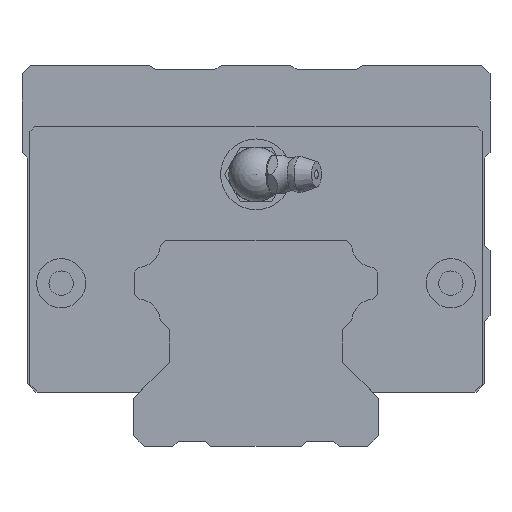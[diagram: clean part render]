
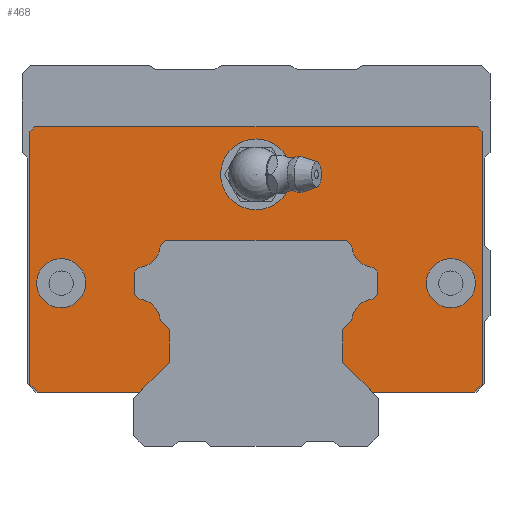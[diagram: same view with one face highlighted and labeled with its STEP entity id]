
A CAD part, front view. The second image highlights one B-rep face of the part: STEP entity #468.
In plain terms, the highlighted planar face has unit normal (0, -1, 0).
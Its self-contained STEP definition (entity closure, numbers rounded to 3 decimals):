
#185=FACE_BOUND('',#950,.T.);
#186=FACE_BOUND('',#951,.T.);
#187=FACE_BOUND('',#952,.T.);
#291=CIRCLE('',#3246,4.35);
#293=CIRCLE('',#3252,4.35);
#295=CIRCLE('',#3258,4.35);
#297=CIRCLE('',#3264,4.35);
#305=CIRCLE('',#3304,6.5);
#306=CIRCLE('',#3305,4.5);
#307=CIRCLE('',#3306,4.5);
#468=ADVANCED_FACE('',(#185,#186,#187,#755),#608,.F.);
#608=PLANE('',#3307);
#755=FACE_OUTER_BOUND('',#953,.T.);
#950=EDGE_LOOP('',(#1685));
#951=EDGE_LOOP('',(#1686));
#952=EDGE_LOOP('',(#1687));
#953=EDGE_LOOP('',(#1688,#1689,#1690,#1691,#1692,#1693,#1694,#1695,#1696,
#1697,#1698,#1699,#1700,#1701,#1702,#1703,#1704,#1705,#1706,#1707,#1708,
#1709,#1710,#1711,#1712,#1713,#1714,#1715));
#1685=ORIENTED_EDGE('',*,*,#2465,.F.);
#1686=ORIENTED_EDGE('',*,*,#2466,.F.);
#1687=ORIENTED_EDGE('',*,*,#2467,.F.);
#1688=ORIENTED_EDGE('',*,*,#2453,.F.);
#1689=ORIENTED_EDGE('',*,*,#2464,.T.);
#1690=ORIENTED_EDGE('',*,*,#2462,.T.);
#1691=ORIENTED_EDGE('',*,*,#2401,.T.);
#1692=ORIENTED_EDGE('',*,*,#2393,.F.);
#1693=ORIENTED_EDGE('',*,*,#2390,.F.);
#1694=ORIENTED_EDGE('',*,*,#2387,.T.);
#1695=ORIENTED_EDGE('',*,*,#2384,.T.);
#1696=ORIENTED_EDGE('',*,*,#2381,.T.);
#1697=ORIENTED_EDGE('',*,*,#2378,.F.);
#1698=ORIENTED_EDGE('',*,*,#2375,.F.);
#1699=ORIENTED_EDGE('',*,*,#2372,.T.);
#1700=ORIENTED_EDGE('',*,*,#2369,.F.);
#1701=ORIENTED_EDGE('',*,*,#2366,.T.);
#1702=ORIENTED_EDGE('',*,*,#2363,.T.);
#1703=ORIENTED_EDGE('',*,*,#2360,.T.);
#1704=ORIENTED_EDGE('',*,*,#2357,.T.);
#1705=ORIENTED_EDGE('',*,*,#2354,.T.);
#1706=ORIENTED_EDGE('',*,*,#2351,.F.);
#1707=ORIENTED_EDGE('',*,*,#2348,.T.);
#1708=ORIENTED_EDGE('',*,*,#2345,.F.);
#1709=ORIENTED_EDGE('',*,*,#2342,.T.);
#1710=ORIENTED_EDGE('',*,*,#2339,.T.);
#1711=ORIENTED_EDGE('',*,*,#2334,.F.);
#1712=ORIENTED_EDGE('',*,*,#2461,.T.);
#1713=ORIENTED_EDGE('',*,*,#2459,.F.);
#1714=ORIENTED_EDGE('',*,*,#2457,.F.);
#1715=ORIENTED_EDGE('',*,*,#2455,.F.);
#1976=VERTEX_POINT('',#4848);
#1977=VERTEX_POINT('',#4850);
#1981=VERTEX_POINT('',#4860);
#1983=VERTEX_POINT('',#4866);
#1985=VERTEX_POINT('',#4872);
#1987=VERTEX_POINT('',#4878);
#1989=VERTEX_POINT('',#4884);
#1991=VERTEX_POINT('',#4890);
#1993=VERTEX_POINT('',#4896);
#1995=VERTEX_POINT('',#4902);
#1997=VERTEX_POINT('',#4908);
#1999=VERTEX_POINT('',#4914);
#2001=VERTEX_POINT('',#4920);
#2003=VERTEX_POINT('',#4926);
#2005=VERTEX_POINT('',#4932);
#2007=VERTEX_POINT('',#4938);
#2009=VERTEX_POINT('',#4944);
#2011=VERTEX_POINT('',#4950);
#2013=VERTEX_POINT('',#4956);
#2015=VERTEX_POINT('',#4962);
#2017=VERTEX_POINT('',#4968);
#2024=VERTEX_POINT('',#4984);
#2061=VERTEX_POINT('',#5093);
#2062=VERTEX_POINT('',#5095);
#2063=VERTEX_POINT('',#5099);
#2064=VERTEX_POINT('',#5103);
#2065=VERTEX_POINT('',#5107);
#2066=VERTEX_POINT('',#5113);
#2067=VERTEX_POINT('',#5119);
#2068=VERTEX_POINT('',#5121);
#2069=VERTEX_POINT('',#5123);
#2334=EDGE_CURVE('',#1976,#1977,#2669,.T.);
#2339=EDGE_CURVE('',#1981,#1977,#2674,.T.);
#2342=EDGE_CURVE('',#1983,#1981,#2677,.T.);
#2345=EDGE_CURVE('',#1983,#1985,#2680,.T.);
#2348=EDGE_CURVE('',#1987,#1985,#291,.T.);
#2351=EDGE_CURVE('',#1987,#1989,#2684,.T.);
#2354=EDGE_CURVE('',#1991,#1989,#2687,.T.);
#2357=EDGE_CURVE('',#1993,#1991,#2690,.T.);
#2360=EDGE_CURVE('',#1995,#1993,#293,.T.);
#2363=EDGE_CURVE('',#1997,#1995,#2694,.T.);
#2366=EDGE_CURVE('',#1999,#1997,#2697,.T.);
#2369=EDGE_CURVE('',#1999,#2001,#2700,.T.);
#2372=EDGE_CURVE('',#2003,#2001,#295,.T.);
#2375=EDGE_CURVE('',#2003,#2005,#2704,.T.);
#2378=EDGE_CURVE('',#2005,#2007,#2707,.T.);
#2381=EDGE_CURVE('',#2009,#2007,#2710,.T.);
#2384=EDGE_CURVE('',#2011,#2009,#297,.T.);
#2387=EDGE_CURVE('',#2013,#2011,#2714,.T.);
#2390=EDGE_CURVE('',#2013,#2015,#2717,.T.);
#2393=EDGE_CURVE('',#2015,#2017,#2720,.T.);
#2401=EDGE_CURVE('',#2024,#2017,#2728,.T.);
#2453=EDGE_CURVE('',#2061,#2062,#2774,.T.);
#2455=EDGE_CURVE('',#2062,#2063,#2776,.T.);
#2457=EDGE_CURVE('',#2063,#2064,#2778,.T.);
#2459=EDGE_CURVE('',#2064,#2065,#2780,.T.);
#2461=EDGE_CURVE('',#1976,#2065,#2782,.T.);
#2462=EDGE_CURVE('',#2066,#2024,#2783,.T.);
#2464=EDGE_CURVE('',#2061,#2066,#2785,.T.);
#2465=EDGE_CURVE('',#2067,#2067,#305,.T.);
#2466=EDGE_CURVE('',#2068,#2068,#306,.T.);
#2467=EDGE_CURVE('',#2069,#2069,#307,.T.);
#2669=LINE('',#4849,#2970);
#2674=LINE('',#4859,#2975);
#2677=LINE('',#4865,#2978);
#2680=LINE('',#4871,#2981);
#2684=LINE('',#4883,#2985);
#2687=LINE('',#4889,#2988);
#2690=LINE('',#4895,#2991);
#2694=LINE('',#4907,#2995);
#2697=LINE('',#4913,#2998);
#2700=LINE('',#4919,#3001);
#2704=LINE('',#4931,#3005);
#2707=LINE('',#4937,#3008);
#2710=LINE('',#4943,#3011);
#2714=LINE('',#4955,#3015);
#2717=LINE('',#4961,#3018);
#2720=LINE('',#4967,#3021);
#2728=LINE('',#4983,#3029);
#2774=LINE('',#5094,#3075);
#2776=LINE('',#5098,#3077);
#2778=LINE('',#5102,#3079);
#2780=LINE('',#5106,#3081);
#2782=LINE('',#5110,#3083);
#2783=LINE('',#5112,#3084);
#2785=LINE('',#5116,#3086);
#2970=VECTOR('',#3808,1.);
#2975=VECTOR('',#3815,1.);
#2978=VECTOR('',#3820,1.);
#2981=VECTOR('',#3825,1.);
#2985=VECTOR('',#3837,1.);
#2988=VECTOR('',#3842,1.);
#2991=VECTOR('',#3847,1.);
#2995=VECTOR('',#3859,1.);
#2998=VECTOR('',#3864,1.);
#3001=VECTOR('',#3869,1.);
#3005=VECTOR('',#3881,1.);
#3008=VECTOR('',#3886,1.);
#3011=VECTOR('',#3891,1.);
#3015=VECTOR('',#3903,1.);
#3018=VECTOR('',#3908,1.);
#3021=VECTOR('',#3913,1.);
#3029=VECTOR('',#3923,1.);
#3075=VECTOR('',#4023,1.);
#3077=VECTOR('',#4027,1.);
#3079=VECTOR('',#4031,1.);
#3081=VECTOR('',#4035,1.);
#3083=VECTOR('',#4039,1.);
#3084=VECTOR('',#4042,1.);
#3086=VECTOR('',#4046,1.);
#3246=AXIS2_PLACEMENT_3D('',#4877,#3830,#3831);
#3252=AXIS2_PLACEMENT_3D('',#4901,#3852,#3853);
#3258=AXIS2_PLACEMENT_3D('',#4925,#3874,#3875);
#3264=AXIS2_PLACEMENT_3D('',#4949,#3896,#3897);
#3304=AXIS2_PLACEMENT_3D('',#5118,#4049,#4050);
#3305=AXIS2_PLACEMENT_3D('',#5120,#4051,#4052);
#3306=AXIS2_PLACEMENT_3D('',#5122,#4053,#4054);
#3307=AXIS2_PLACEMENT_3D('',#5124,#4055,#4056);
#3808=DIRECTION('',(-1.,0.,0.));
#3815=DIRECTION('',(0.707,0.,-0.707));
#3820=DIRECTION('',(0.,0.,-1.));
#3825=DIRECTION('',(0.707,0.,0.707));
#3830=DIRECTION('',(0.,-1.,0.));
#3831=DIRECTION('',(1.,0.,0.));
#3837=DIRECTION('',(0.707,0.,0.707));
#3842=DIRECTION('',(0.,0.,-1.));
#3847=DIRECTION('',(0.707,0.,-0.707));
#3852=DIRECTION('',(0.,-1.,0.));
#3853=DIRECTION('',(1.,0.,0.));
#3859=DIRECTION('',(0.707,0.,-0.707));
#3864=DIRECTION('',(1.,0.,0.));
#3869=DIRECTION('',(-0.707,0.,-0.707));
#3874=DIRECTION('',(0.,-1.,0.));
#3875=DIRECTION('',(1.,0.,0.));
#3881=DIRECTION('',(-0.707,0.,-0.707));
#3886=DIRECTION('',(0.,0.,-1.));
#3891=DIRECTION('',(-0.707,0.,0.707));
#3896=DIRECTION('',(0.,-1.,0.));
#3897=DIRECTION('',(1.,0.,0.));
#3903=DIRECTION('',(-0.707,0.,0.707));
#3908=DIRECTION('',(0.,0.,-1.));
#3913=DIRECTION('',(-0.707,0.,-0.707));
#3923=DIRECTION('',(1.,0.,0.));
#4023=DIRECTION('',(0.707,0.,0.707));
#4027=DIRECTION('',(1.,0.,0.));
#4031=DIRECTION('',(0.707,0.,-0.707));
#4035=DIRECTION('',(0.,0.,-1.));
#4039=DIRECTION('',(0.707,0.,0.707));
#4042=DIRECTION('',(0.707,0.,-0.707));
#4046=DIRECTION('',(0.,0.,-1.));
#4049=DIRECTION('',(0.,-1.,0.));
#4050=DIRECTION('',(0.,0.,-1.));
#4051=DIRECTION('',(0.,-1.,0.));
#4052=DIRECTION('',(0.,0.,-1.));
#4053=DIRECTION('',(0.,-1.,0.));
#4054=DIRECTION('',(0.,0.,-1.));
#4055=DIRECTION('',(0.,1.,0.));
#4056=DIRECTION('',(0.,0.,-1.));
#4848=CARTESIAN_POINT('',(40.146,-67.85,10.));
#4849=CARTESIAN_POINT('',(40.146,-67.85,10.));
#4850=CARTESIAN_POINT('',(21.359,-67.85,10.));
#4859=CARTESIAN_POINT('',(15.9,-67.85,15.459));
#4860=CARTESIAN_POINT('',(15.9,-67.85,15.459));
#4865=CARTESIAN_POINT('',(15.9,-67.85,21.441));
#4866=CARTESIAN_POINT('',(15.9,-67.85,21.441));
#4871=CARTESIAN_POINT('',(15.9,-67.85,21.441));
#4872=CARTESIAN_POINT('',(17.575,-67.85,23.116));
#4877=CARTESIAN_POINT('',(21.912,-67.85,22.788));
#4878=CARTESIAN_POINT('',(21.584,-67.85,27.125));
#4883=CARTESIAN_POINT('',(21.584,-67.85,27.125));
#4884=CARTESIAN_POINT('',(22.4,-67.85,27.941));
#4889=CARTESIAN_POINT('',(22.4,-67.85,32.059));
#4890=CARTESIAN_POINT('',(22.4,-67.85,32.059));
#4895=CARTESIAN_POINT('',(21.584,-67.85,32.875));
#4896=CARTESIAN_POINT('',(21.584,-67.85,32.875));
#4901=CARTESIAN_POINT('',(21.912,-67.85,37.212));
#4902=CARTESIAN_POINT('',(17.575,-67.85,36.884));
#4907=CARTESIAN_POINT('',(16.559,-67.85,37.9));
#4908=CARTESIAN_POINT('',(16.559,-67.85,37.9));
#4913=CARTESIAN_POINT('',(-16.559,-67.85,37.9));
#4914=CARTESIAN_POINT('',(-16.559,-67.85,37.9));
#4919=CARTESIAN_POINT('',(-16.559,-67.85,37.9));
#4920=CARTESIAN_POINT('',(-17.575,-67.85,36.884));
#4925=CARTESIAN_POINT('',(-21.912,-67.85,37.212));
#4926=CARTESIAN_POINT('',(-21.584,-67.85,32.875));
#4931=CARTESIAN_POINT('',(-21.584,-67.85,32.875));
#4932=CARTESIAN_POINT('',(-22.4,-67.85,32.059));
#4937=CARTESIAN_POINT('',(-22.4,-67.85,32.059));
#4938=CARTESIAN_POINT('',(-22.4,-67.85,27.941));
#4943=CARTESIAN_POINT('',(-21.584,-67.85,27.125));
#4944=CARTESIAN_POINT('',(-21.584,-67.85,27.125));
#4949=CARTESIAN_POINT('',(-21.912,-67.85,22.788));
#4950=CARTESIAN_POINT('',(-17.575,-67.85,23.116));
#4955=CARTESIAN_POINT('',(-15.9,-67.85,21.441));
#4956=CARTESIAN_POINT('',(-15.9,-67.85,21.441));
#4961=CARTESIAN_POINT('',(-15.9,-67.85,21.441));
#4962=CARTESIAN_POINT('',(-15.9,-67.85,15.459));
#4967=CARTESIAN_POINT('',(-15.9,-67.85,15.459));
#4968=CARTESIAN_POINT('',(-21.359,-67.85,10.));
#4983=CARTESIAN_POINT('',(-40.146,-67.85,10.));
#4984=CARTESIAN_POINT('',(-40.146,-67.85,10.));
#5093=CARTESIAN_POINT('',(-41.55,-67.85,57.896));
#5094=CARTESIAN_POINT('',(-41.55,-67.85,57.896));
#5095=CARTESIAN_POINT('',(-40.696,-67.85,58.75));
#5098=CARTESIAN_POINT('',(-40.696,-67.85,58.75));
#5099=CARTESIAN_POINT('',(40.696,-67.85,58.75));
#5102=CARTESIAN_POINT('',(40.696,-67.85,58.75));
#5103=CARTESIAN_POINT('',(41.55,-67.85,57.896));
#5106=CARTESIAN_POINT('',(41.55,-67.85,57.896));
#5107=CARTESIAN_POINT('',(41.55,-67.85,11.404));
#5110=CARTESIAN_POINT('',(40.146,-67.85,10.));
#5112=CARTESIAN_POINT('',(-41.55,-67.85,11.404));
#5113=CARTESIAN_POINT('',(-41.55,-67.85,11.404));
#5116=CARTESIAN_POINT('',(-41.55,-67.85,57.896));
#5118=CARTESIAN_POINT('',(0.,-67.85,50.));
#5119=CARTESIAN_POINT('',(0.,-67.85,43.5));
#5120=CARTESIAN_POINT('',(35.8,-67.85,30.));
#5121=CARTESIAN_POINT('',(35.8,-67.85,25.5));
#5122=CARTESIAN_POINT('',(-35.8,-67.85,30.));
#5123=CARTESIAN_POINT('',(-35.8,-67.85,25.5));
#5124=CARTESIAN_POINT('',(21.912,-67.85,22.788));
